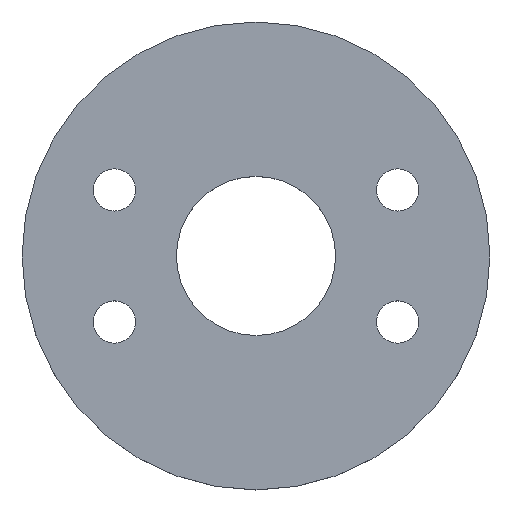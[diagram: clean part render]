
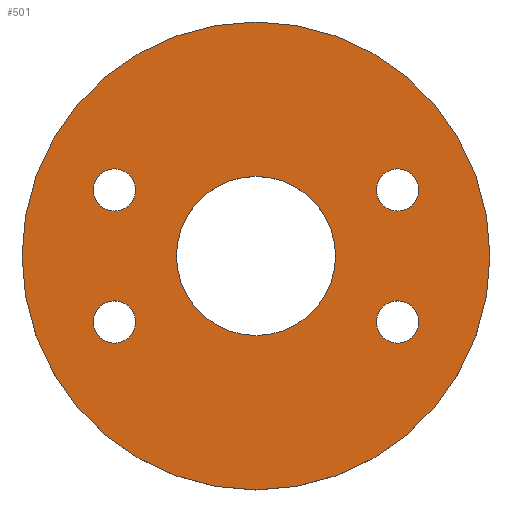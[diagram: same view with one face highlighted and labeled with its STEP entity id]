
A CAD part, top view. The second image highlights one B-rep face of the part: STEP entity #501.
In plain terms, the highlighted planar face has unit normal (0, 0, 1).
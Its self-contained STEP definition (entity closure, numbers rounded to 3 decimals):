
#1 = ORIENTED_EDGE ( 'NONE', *, *, #122, .F. ) ;
#13 = ORIENTED_EDGE ( 'NONE', *, *, #397, .F. ) ;
#14 = CARTESIAN_POINT ( 'NONE',  ( -175., 0., 35. ) ) ;
#29 = FACE_BOUND ( 'NONE', #84, .T. ) ;
#35 = DIRECTION ( 'NONE',  ( 0., 0., 1. ) ) ;
#42 = EDGE_CURVE ( 'NONE', #482, #64, #118, .T. ) ;
#49 = VERTEX_POINT ( 'NONE', #71 ) ;
#55 = CARTESIAN_POINT ( 'NONE',  ( -311.317, -145.169, 35. ) ) ;
#57 = EDGE_LOOP ( 'NONE', ( #239, #1 ) ) ;
#61 = AXIS2_PLACEMENT_3D ( 'NONE', #443, #448, #449 ) ;
#64 = VERTEX_POINT ( 'NONE', #496 ) ;
#65 = CARTESIAN_POINT ( 'NONE',  ( 0., 0., 35. ) ) ;
#66 = VERTEX_POINT ( 'NONE', #97 ) ;
#71 = CARTESIAN_POINT ( 'NONE',  ( -357.817, 145.169, 35. ) ) ;
#72 = EDGE_LOOP ( 'NONE', ( #13, #315 ) ) ;
#74 = DIRECTION ( 'NONE',  ( 0., 0., 1. ) ) ;
#75 = DIRECTION ( 'NONE',  ( 0., 0., 1. ) ) ;
#76 = CARTESIAN_POINT ( 'NONE',  ( -311.317, 145.169, 35. ) ) ;
#83 = DIRECTION ( 'NONE',  ( 1., 0., 0. ) ) ;
#84 = EDGE_LOOP ( 'NONE', ( #85, #504 ) ) ;
#85 = ORIENTED_EDGE ( 'NONE', *, *, #491, .F. ) ;
#87 = ORIENTED_EDGE ( 'NONE', *, *, #467, .F. ) ;
#89 = DIRECTION ( 'NONE',  ( 1., 0., 0. ) ) ;
#97 = CARTESIAN_POINT ( 'NONE',  ( -357.817, -145.169, 35. ) ) ;
#103 = AXIS2_PLACEMENT_3D ( 'NONE', #209, #233, #243 ) ;
#106 = EDGE_LOOP ( 'NONE', ( #199, #87 ) ) ;
#118 = CIRCLE ( 'NONE', #543, 514.5 ) ;
#119 = DIRECTION ( 'NONE',  ( 1., 0., 0. ) ) ;
#120 = CIRCLE ( 'NONE', #395, 175. ) ;
#122 = EDGE_CURVE ( 'NONE', #254, #277, #445, .T. ) ;
#125 = CARTESIAN_POINT ( 'NONE',  ( 357.817, -145.169, 35. ) ) ;
#130 = CIRCLE ( 'NONE', #166, 46.5 ) ;
#132 = VERTEX_POINT ( 'NONE', #145 ) ;
#142 = DIRECTION ( 'NONE',  ( -1., 0., 0. ) ) ;
#143 = ORIENTED_EDGE ( 'NONE', *, *, #42, .T. ) ;
#145 = CARTESIAN_POINT ( 'NONE',  ( -264.817, -145.169, 35. ) ) ;
#148 = CARTESIAN_POINT ( 'NONE',  ( 311.317, 145.169, 35. ) ) ;
#149 = CIRCLE ( 'NONE', #61, 514.5 ) ;
#155 = EDGE_LOOP ( 'NONE', ( #226, #163 ) ) ;
#158 = EDGE_CURVE ( 'NONE', #327, #266, #493, .T. ) ;
#163 = ORIENTED_EDGE ( 'NONE', *, *, #393, .F. ) ;
#166 = AXIS2_PLACEMENT_3D ( 'NONE', #76, #74, #142 ) ;
#170 = EDGE_CURVE ( 'NONE', #64, #482, #149, .T. ) ;
#173 = DIRECTION ( 'NONE',  ( 0., 0., 1. ) ) ;
#175 = AXIS2_PLACEMENT_3D ( 'NONE', #348, #376, #386 ) ;
#189 = DIRECTION ( 'NONE',  ( 0., 0., 1. ) ) ;
#197 = CIRCLE ( 'NONE', #464, 46.5 ) ;
#199 = ORIENTED_EDGE ( 'NONE', *, *, #444, .F. ) ;
#201 = CARTESIAN_POINT ( 'NONE',  ( 264.817, 145.169, 35. ) ) ;
#209 = CARTESIAN_POINT ( 'NONE',  ( 0., 0., 35. ) ) ;
#226 = ORIENTED_EDGE ( 'NONE', *, *, #528, .F. ) ;
#231 = DIRECTION ( 'NONE',  ( -1., 0., 0. ) ) ;
#233 = DIRECTION ( 'NONE',  ( 0., 0., 1. ) ) ;
#239 = ORIENTED_EDGE ( 'NONE', *, *, #485, .F. ) ;
#243 = DIRECTION ( 'NONE',  ( 1., 0., 0. ) ) ;
#254 = VERTEX_POINT ( 'NONE', #538 ) ;
#260 = CIRCLE ( 'NONE', #534, 46.5 ) ;
#262 = EDGE_CURVE ( 'NONE', #49, #361, #453, .T. ) ;
#264 = CARTESIAN_POINT ( 'NONE',  ( -311.317, -145.169, 35. ) ) ;
#266 = VERTEX_POINT ( 'NONE', #125 ) ;
#269 = AXIS2_PLACEMENT_3D ( 'NONE', #418, #173, #231 ) ;
#272 = VERTEX_POINT ( 'NONE', #201 ) ;
#276 = CARTESIAN_POINT ( 'NONE',  ( 311.317, 145.169, 35. ) ) ;
#277 = VERTEX_POINT ( 'NONE', #14 ) ;
#282 = CARTESIAN_POINT ( 'NONE',  ( -264.817, 145.169, 35. ) ) ;
#289 = AXIS2_PLACEMENT_3D ( 'NONE', #264, #518, #310 ) ;
#299 = ORIENTED_EDGE ( 'NONE', *, *, #170, .T. ) ;
#310 = DIRECTION ( 'NONE',  ( 1., 0., 0. ) ) ;
#315 = ORIENTED_EDGE ( 'NONE', *, *, #262, .F. ) ;
#319 = PLANE ( 'NONE',  #488 ) ;
#323 = DIRECTION ( 'NONE',  ( 0., 0., 1. ) ) ;
#325 = DIRECTION ( 'NONE',  ( 1., 0., 0. ) ) ;
#327 = VERTEX_POINT ( 'NONE', #502 ) ;
#341 = AXIS2_PLACEMENT_3D ( 'NONE', #55, #346, #119 ) ;
#342 = VERTEX_POINT ( 'NONE', #471 ) ;
#346 = DIRECTION ( 'NONE',  ( 0., 0., 1. ) ) ;
#348 = CARTESIAN_POINT ( 'NONE',  ( 311.317, -145.169, 35. ) ) ;
#360 = DIRECTION ( 'NONE',  ( 1., 0., 0. ) ) ;
#361 = VERTEX_POINT ( 'NONE', #282 ) ;
#364 = CARTESIAN_POINT ( 'NONE',  ( 311.317, -145.169, 35. ) ) ;
#367 = FACE_BOUND ( 'NONE', #57, .T. ) ;
#368 = DIRECTION ( 'NONE',  ( 1., 0., 0. ) ) ;
#374 = AXIS2_PLACEMENT_3D ( 'NONE', #364, #531, #431 ) ;
#376 = DIRECTION ( 'NONE',  ( 0., 0., 1. ) ) ;
#386 = DIRECTION ( 'NONE',  ( -1., 0., 0. ) ) ;
#387 = CIRCLE ( 'NONE', #374, 46.5 ) ;
#393 = EDGE_CURVE ( 'NONE', #272, #342, #260, .T. ) ;
#395 = AXIS2_PLACEMENT_3D ( 'NONE', #399, #525, #83 ) ;
#397 = EDGE_CURVE ( 'NONE', #361, #49, #130, .T. ) ;
#399 = CARTESIAN_POINT ( 'NONE',  ( 0., 0., 35. ) ) ;
#402 = FACE_BOUND ( 'NONE', #155, .T. ) ;
#417 = CARTESIAN_POINT ( 'NONE',  ( -514.5, 0., 35. ) ) ;
#418 = CARTESIAN_POINT ( 'NONE',  ( -311.317, 145.169, 35. ) ) ;
#431 = DIRECTION ( 'NONE',  ( -1., 0., 0. ) ) ;
#435 = FACE_BOUND ( 'NONE', #72, .T. ) ;
#437 = CIRCLE ( 'NONE', #289, 46.5 ) ;
#443 = CARTESIAN_POINT ( 'NONE',  ( 0., 0., 35. ) ) ;
#444 = EDGE_CURVE ( 'NONE', #132, #66, #437, .T. ) ;
#445 = CIRCLE ( 'NONE', #103, 175. ) ;
#448 = DIRECTION ( 'NONE',  ( 0., 0., 1. ) ) ;
#449 = DIRECTION ( 'NONE',  ( 1., 0., 0. ) ) ;
#453 = CIRCLE ( 'NONE', #269, 46.5 ) ;
#464 = AXIS2_PLACEMENT_3D ( 'NONE', #148, #35, #368 ) ;
#467 = EDGE_CURVE ( 'NONE', #66, #132, #472, .T. ) ;
#471 = CARTESIAN_POINT ( 'NONE',  ( 357.817, 145.169, 35. ) ) ;
#472 = CIRCLE ( 'NONE', #341, 46.5 ) ;
#482 = VERTEX_POINT ( 'NONE', #417 ) ;
#485 = EDGE_CURVE ( 'NONE', #277, #254, #120, .T. ) ;
#488 = AXIS2_PLACEMENT_3D ( 'NONE', #529, #189, #325 ) ;
#489 = EDGE_LOOP ( 'NONE', ( #143, #299 ) ) ;
#491 = EDGE_CURVE ( 'NONE', #266, #327, #387, .T. ) ;
#493 = CIRCLE ( 'NONE', #175, 46.5 ) ;
#496 = CARTESIAN_POINT ( 'NONE',  ( 514.5, 0., 35. ) ) ;
#497 = FACE_OUTER_BOUND ( 'NONE', #489, .T. ) ;
#501 = ADVANCED_FACE ( 'NONE', ( #435, #540, #29, #402, #497, #367 ), #319, .T. ) ;
#502 = CARTESIAN_POINT ( 'NONE',  ( 264.817, -145.169, 35. ) ) ;
#504 = ORIENTED_EDGE ( 'NONE', *, *, #158, .F. ) ;
#518 = DIRECTION ( 'NONE',  ( 0., 0., 1. ) ) ;
#525 = DIRECTION ( 'NONE',  ( 0., 0., 1. ) ) ;
#528 = EDGE_CURVE ( 'NONE', #342, #272, #197, .T. ) ;
#529 = CARTESIAN_POINT ( 'NONE',  ( 0., 0., 35. ) ) ;
#531 = DIRECTION ( 'NONE',  ( 0., 0., 1. ) ) ;
#534 = AXIS2_PLACEMENT_3D ( 'NONE', #276, #323, #360 ) ;
#538 = CARTESIAN_POINT ( 'NONE',  ( 175., 0., 35. ) ) ;
#540 = FACE_BOUND ( 'NONE', #106, .T. ) ;
#543 = AXIS2_PLACEMENT_3D ( 'NONE', #65, #75, #89 ) ;
